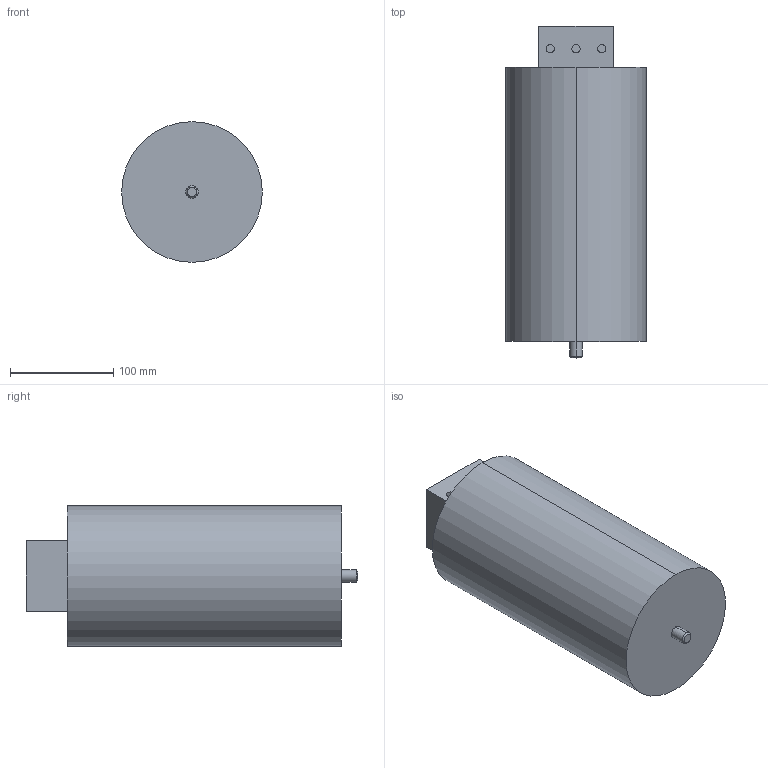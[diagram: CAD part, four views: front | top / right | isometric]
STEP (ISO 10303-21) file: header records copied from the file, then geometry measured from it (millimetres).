
FILE_DESCRIPTION (( 'STEP AP214' ), '1' );
FILE_NAME ('Êîíäåíñàòîð êîñèíóñíûé ÊÏÑ-0,40-25-3.STEP', '2018-03-06T11:37:09', ( '' ), ( '' ), 'SwSTEP 2.0', 'SolidWorks 2017', '' );
FILE_SCHEMA (( 'AUTOMOTIVE_DESIGN' ));
Length unit declared in the file: millimetre
Products named in the file (1): Êîíäåíñàòîð êîñèíóñíûé ÊÏÑ-0,40-25-3
Bounding box: 136 x 321 x 136 mm (x, y, z)
Volume: 4043422.7 mm3; surface area: 155928.5 mm2
Topology: 1 solids, 1 shells, 32 faces, 64 edges, 42 vertices
Faces by surface type: cylinder 16, plane 14, cone 2
Entity records: 957 total; most frequent: DIRECTION 164, CARTESIAN_POINT 139, ORIENTED_EDGE 128, AXIS2_PLACEMENT_3D 67, EDGE_CURVE 64, VERTEX_POINT 42, EDGE_LOOP 40, CIRCLE 34
